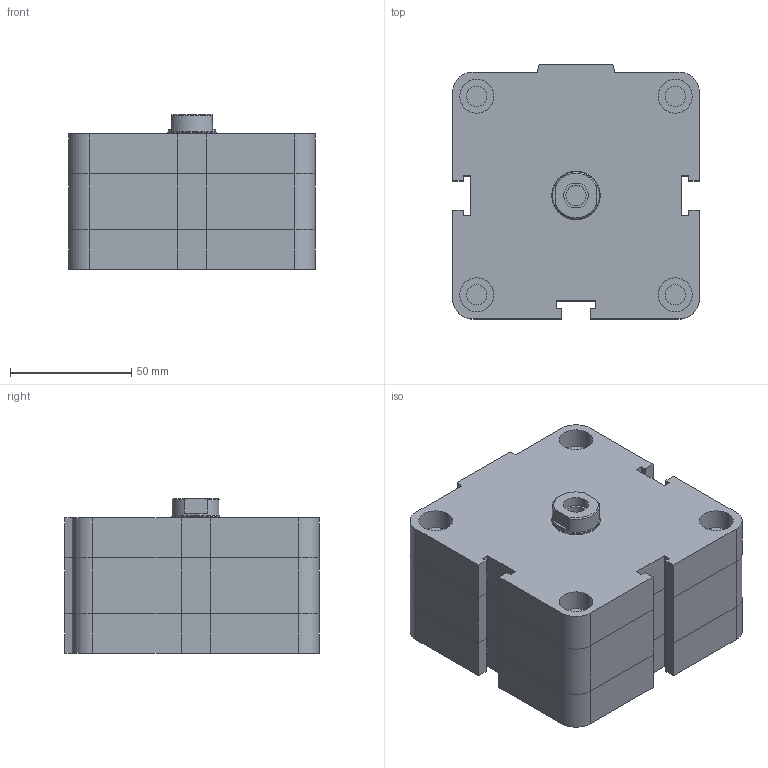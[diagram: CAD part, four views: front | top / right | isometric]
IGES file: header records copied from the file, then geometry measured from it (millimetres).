
Global section: file name: No Iges File Name specified; native system: Autodesk Inventor 2009; preprocessor: AutoDesk Inventor Iges Exporter R2009; author: rivolro1; date: 20081219.154922; units: millimetre
Bounding box: 102 x 105 x 64 mm (x, y, z)
Volume: 550459.4 mm3; surface area: 57102.2 mm2
Topology: 2 solids, 2 shells, 187 faces, 410 edges, 248 vertices
Faces by surface type: plane 112, bspline 39, revolution 16, cylinder 16, cone 4
